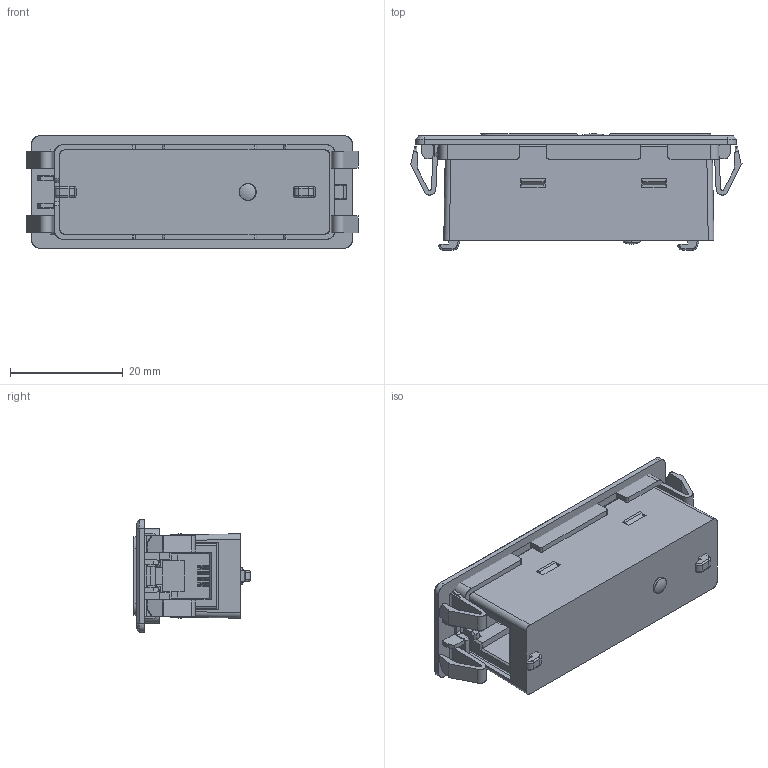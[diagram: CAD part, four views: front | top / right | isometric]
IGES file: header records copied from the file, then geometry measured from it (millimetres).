
Start section: SolidWorks IGES file using analytic representation for surfaces
Global section: file name: B:\ASSEMBLIES\LMS DALIeco LS_PD LI digital Sensor\ZPE-2764915-000-01_CADexport.IGS; native system: SolidWorks 2011; preprocessor: SolidWorks 2011; author: W.Ebert; date: 120724.164126; units: millimetre
Bounding box: 58.99 x 20.7 x 20 mm (x, y, z)
Surface area: 10717.2 mm2 (no closed solid volume)
Topology: 0 solids, 0 shells, 1264 faces, 11312 edges, 11308 vertices
Faces by surface type: bspline 941, revolution 323
